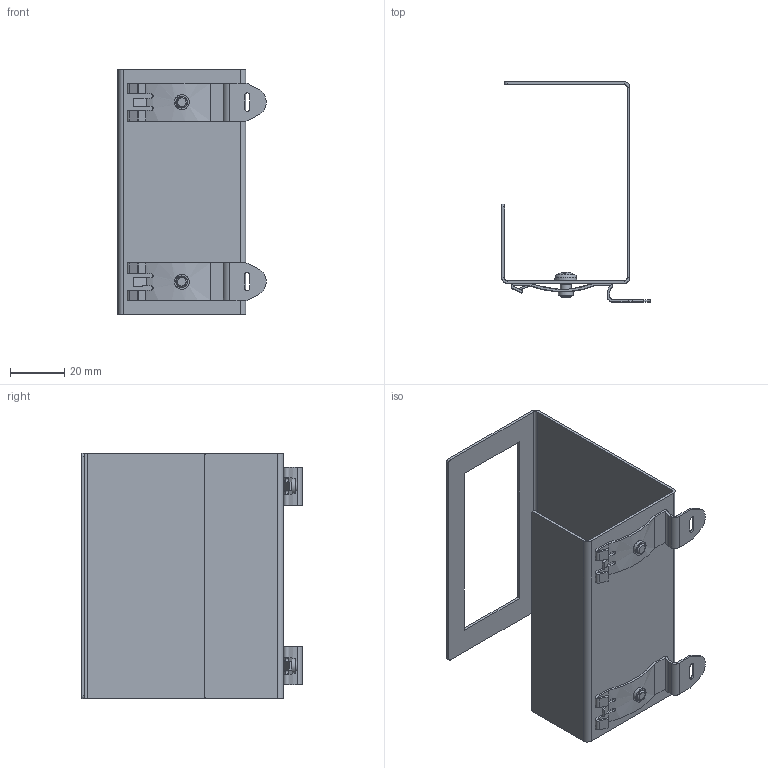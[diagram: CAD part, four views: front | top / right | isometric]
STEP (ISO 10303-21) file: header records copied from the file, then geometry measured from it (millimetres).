
FILE_DESCRIPTION(/* description */ (''),/* implementation_level */ '2;1');
FILE_NAME(/* name */ '1300.50.001.stp',/* time_stamp */ '2026-05-11T09:35:48+02:00',/* author */ ('ut3'),/* organization */ (''),/* preprocessor_version */ 'ST-DEVELOPER v20.1',/* originating_system */ 'Autodesk Inventor 2026',/* authorisation */ '');
FILE_SCHEMA (('AUTOMOTIVE_DESIGN { 1 0 10303 214 3 1 1 }'));
Length unit declared in the file: millimetre
Products named in the file (4): 1300.50.001; 1300.20.074-MV1; ISO 7045 - M4 x 6 - 4.8 - H; dn-clip-fm4
Assembly tree (5 placements, depth 2):
  1300.50.001
    1300.20.074-MV1
    ISO 7045 - M4 x 6 - 4.8 - H  x2
    dn-clip-fm4  x2
Bounding box: 54.5 x 80.85 x 90 mm (x, y, z)
Volume: 16827.5 mm3; surface area: 35042 mm2
Topology: 5 solids, 5 shells, 226 faces, 610 edges, 400 vertices
Faces by surface type: plane 114, cylinder 70, cone 24, torus 12, bspline 4, sphere 2
Full cylindrical faces by diameter (mm): 3.621 x2, 4 x2, 4.35 x2, 4.5 x2, 5.419 x2
Entity records: 5227 total; most frequent: CARTESIAN_POINT 1742, DIRECTION 706, ORIENTED_EDGE 698, EDGE_CURVE 349, AXIS2_PLACEMENT_3D 256, VERTEX_POINT 226, LINE 194, VECTOR 194
